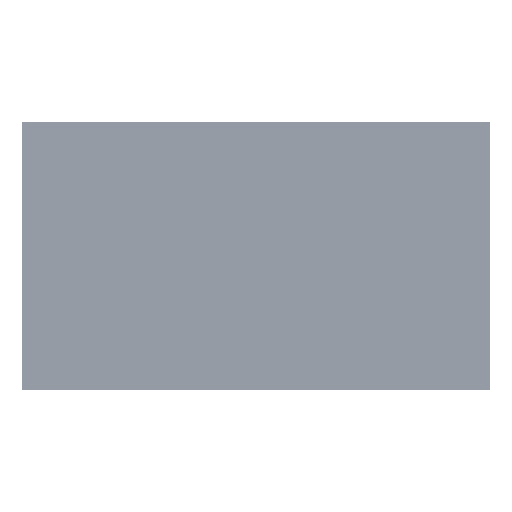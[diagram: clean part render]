
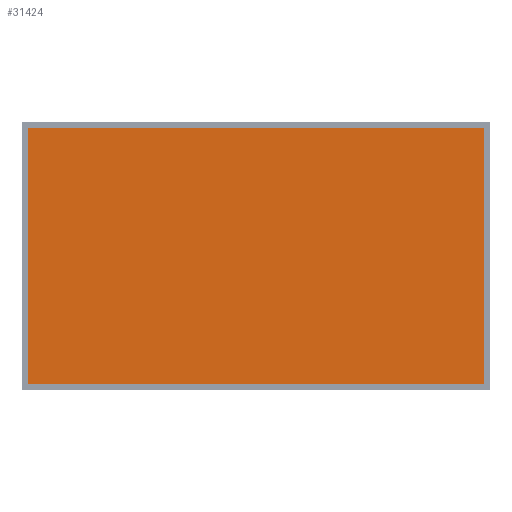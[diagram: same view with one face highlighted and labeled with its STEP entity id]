
A CAD part, top view. The second image highlights one B-rep face of the part: STEP entity #31424.
In plain terms, the highlighted planar face has unit normal (0, 0, 1) as drawn and (0, 1, 0) by its records, which use the part's own axes.
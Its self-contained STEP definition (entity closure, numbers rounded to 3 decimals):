
#1935=DIRECTION('',(0.,0.,-1.));
#1936=VECTOR('',#1935,616.41);
#1937=CARTESIAN_POINT('',(547.92,-0.028,308.205));
#1938=LINE('',#1937,#1936);
#1939=DIRECTION('',(-1.,0.,0.));
#1940=VECTOR('',#1939,1095.84);
#1941=CARTESIAN_POINT('',(547.92,-0.028,-308.205));
#1942=LINE('',#1941,#1940);
#1943=DIRECTION('',(0.,0.,1.));
#1944=VECTOR('',#1943,616.41);
#1945=CARTESIAN_POINT('',(-547.92,-0.028,-308.205));
#1946=LINE('',#1945,#1944);
#1947=DIRECTION('',(1.,0.,0.));
#1948=VECTOR('',#1947,1095.84);
#1949=CARTESIAN_POINT('',(-547.92,-0.028,308.205));
#1950=LINE('',#1949,#1948);
#25002=CARTESIAN_POINT('',(547.92,-0.028,308.205));
#25003=CARTESIAN_POINT('',(547.92,-0.028,-308.205));
#25004=VERTEX_POINT('',#25002);
#25005=VERTEX_POINT('',#25003);
#25006=CARTESIAN_POINT('',(-547.92,-0.028,-308.205));
#25007=VERTEX_POINT('',#25006);
#25008=CARTESIAN_POINT('',(-547.92,-0.028,308.205));
#25009=VERTEX_POINT('',#25008);
#31413=CARTESIAN_POINT('',(0.,-0.078,0.));
#31414=DIRECTION('',(0.,1.,0.));
#31415=DIRECTION('',(-1.,0.,0.));
#31416=AXIS2_PLACEMENT_3D('',#31413,#31414,#31415);
#31417=PLANE('',#31416);
#31418=ORIENTED_EDGE('',*,*,#31402,.F.);
#31419=ORIENTED_EDGE('',*,*,#31408,.F.);
#31420=ORIENTED_EDGE('',*,*,#31406,.F.);
#31421=ORIENTED_EDGE('',*,*,#31404,.F.);
#31422=EDGE_LOOP('',(#31418,#31419,#31420,#31421));
#31423=FACE_OUTER_BOUND('',#31422,.F.);
#31424=ADVANCED_FACE('',(#31423),#31417,.T.);
#31402=EDGE_CURVE('',#25004,#25005,#1938,.T.);
#31404=EDGE_CURVE('',#25005,#25007,#1942,.T.);
#31406=EDGE_CURVE('',#25007,#25009,#1946,.T.);
#31408=EDGE_CURVE('',#25009,#25004,#1950,.T.);
